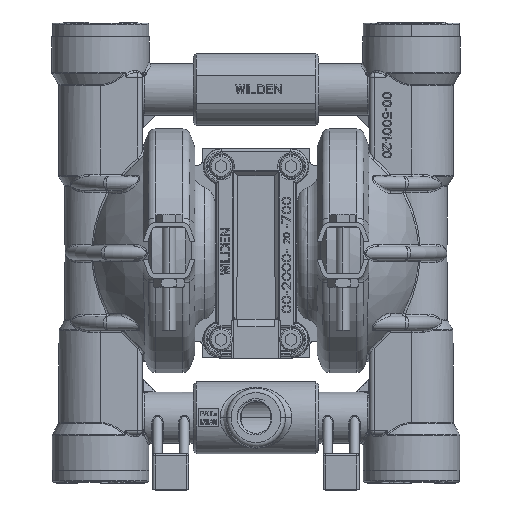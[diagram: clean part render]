
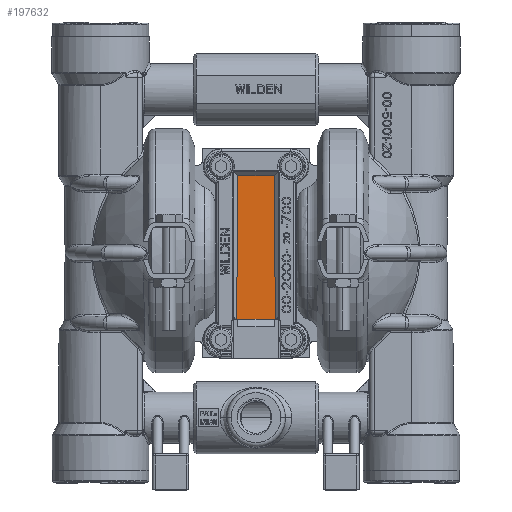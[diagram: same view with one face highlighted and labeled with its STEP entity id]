
A CAD part, top view. The second image highlights one B-rep face of the part: STEP entity #197632.
In plain terms, the highlighted planar face has unit normal (0, 0, 1).
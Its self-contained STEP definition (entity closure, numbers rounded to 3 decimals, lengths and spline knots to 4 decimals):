
#68721=DIRECTION('',(-1.,0.,0.));
#68722=VECTOR('',#68721,0.5921);
#68723=CARTESIAN_POINT('',(0.296,-0.92,2.0161));
#68724=LINE('',#68723,#68722);
#68725=CARTESIAN_POINT('',(-0.2625,-0.89,2.0161));
#68726=DIRECTION('',(0.,0.,1.));
#68727=DIRECTION('',(-1.,0.,0.));
#68728=AXIS2_PLACEMENT_3D('',#68725,#68726,#68727);
#68730=DIRECTION('',(0.,-1.,0.));
#68731=VECTOR('',#68730,1.985);
#68732=CARTESIAN_POINT('',(-0.3075,1.095,2.0161));
#68733=LINE('',#68732,#68731);
#68734=CARTESIAN_POINT('',(-0.2625,1.095,2.0161));
#68735=DIRECTION('',(0.,0.,1.));
#68736=DIRECTION('',(0.,1.,0.));
#68737=AXIS2_PLACEMENT_3D('',#68734,#68735,#68736);
#68739=CARTESIAN_POINT('',(0.2625,1.095,2.0161));
#68740=DIRECTION('',(0.,0.,1.));
#68741=DIRECTION('',(1.,0.,0.));
#68742=AXIS2_PLACEMENT_3D('',#68739,#68740,#68741);
#68744=DIRECTION('',(0.,1.,0.));
#68745=VECTOR('',#68744,1.985);
#68746=CARTESIAN_POINT('',(0.3075,-0.89,2.0161));
#68747=LINE('',#68746,#68745);
#68748=CARTESIAN_POINT('',(0.2625,-0.89,2.0161));
#68749=DIRECTION('',(0.,0.,1.));
#68750=DIRECTION('',(0.745,-0.667,0.));
#68751=AXIS2_PLACEMENT_3D('',#68748,#68749,#68750);
#68765=DIRECTION('',(1.,0.,0.));
#68766=VECTOR('',#68765,0.525);
#68767=CARTESIAN_POINT('',(-0.2625,1.14,2.0161));
#68768=LINE('',#68767,#68766);
#119876=CARTESIAN_POINT('',(0.3075,-0.89,2.0161));
#119878=VERTEX_POINT('',#119876);
#119880=CARTESIAN_POINT('',(-0.3075,-0.89,2.0161));
#119882=VERTEX_POINT('',#119880);
#119884=CARTESIAN_POINT('',(0.3075,1.095,2.0161));
#119885=VERTEX_POINT('',#119884);
#119886=CARTESIAN_POINT('',(-0.3075,1.095,2.0161));
#119887=VERTEX_POINT('',#119886);
#119900=CARTESIAN_POINT('',(-0.2625,1.14,2.0161));
#119901=CARTESIAN_POINT('',(0.2625,1.14,2.0161));
#119902=VERTEX_POINT('',#119900);
#119903=VERTEX_POINT('',#119901);
#120138=CARTESIAN_POINT('',(0.296,-0.92,2.0161));
#120139=CARTESIAN_POINT('',(-0.296,-0.92,2.0161));
#120140=VERTEX_POINT('',#120138);
#120141=VERTEX_POINT('',#120139);
#197611=CARTESIAN_POINT('',(0.,0.1025,2.0161));
#197612=DIRECTION('',(0.,0.,1.));
#197613=DIRECTION('',(-1.,0.,0.));
#197614=AXIS2_PLACEMENT_3D('',#197611,#197612,#197613);
#197615=PLANE('',#197614);
#197616=ORIENTED_EDGE('',*,*,#197541,.T.);
#197618=ORIENTED_EDGE('',*,*,#197617,.F.);
#197620=ORIENTED_EDGE('',*,*,#197619,.F.);
#197622=ORIENTED_EDGE('',*,*,#197621,.F.);
#197624=ORIENTED_EDGE('',*,*,#197623,.T.);
#197626=ORIENTED_EDGE('',*,*,#197625,.F.);
#197628=ORIENTED_EDGE('',*,*,#197627,.F.);
#197629=ORIENTED_EDGE('',*,*,#197603,.F.);
#197630=EDGE_LOOP('',(#197616,#197618,#197620,#197622,#197624,#197626,#197628,
#197629));
#197631=FACE_OUTER_BOUND('',#197630,.F.);
#68729=CIRCLE('',#68728,0.045);
#68738=CIRCLE('',#68737,0.045);
#68743=CIRCLE('',#68742,0.045);
#68752=CIRCLE('',#68751,0.045);
#197541=EDGE_CURVE('',#120140,#120141,#68724,.T.);
#197603=EDGE_CURVE('',#120140,#119878,#68752,.T.);
#197617=EDGE_CURVE('',#119882,#120141,#68729,.T.);
#197619=EDGE_CURVE('',#119887,#119882,#68733,.T.);
#197621=EDGE_CURVE('',#119902,#119887,#68738,.T.);
#197623=EDGE_CURVE('',#119902,#119903,#68768,.T.);
#197625=EDGE_CURVE('',#119885,#119903,#68743,.T.);
#197627=EDGE_CURVE('',#119878,#119885,#68747,.T.);
#197632=ADVANCED_FACE('',(#197631),#197615,.T.);
